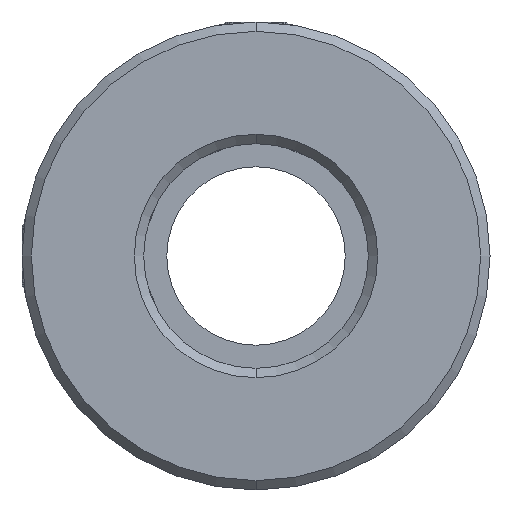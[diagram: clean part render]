
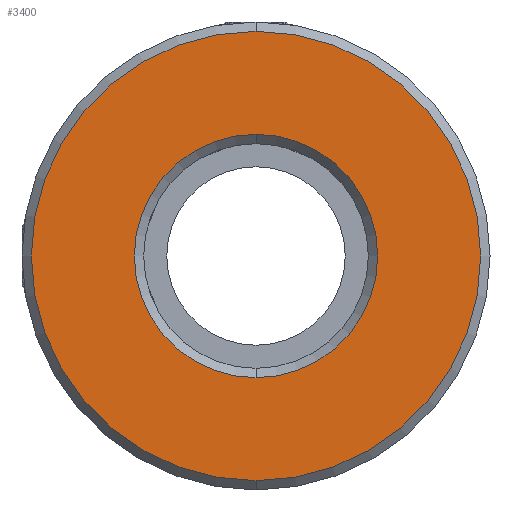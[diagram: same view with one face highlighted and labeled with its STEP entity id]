
A CAD part, front view. The second image highlights one B-rep face of the part: STEP entity #3400.
In plain terms, the highlighted planar face has unit normal (0, -1, 0).
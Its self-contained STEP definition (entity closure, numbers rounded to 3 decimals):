
#239 = FACE_OUTER_BOUND ( 'NONE', #2983, .T. ) ;
#240 = DIRECTION ( 'NONE',  ( 0., 0., 1. ) ) ;
#339 = VERTEX_POINT ( 'NONE', #2026 ) ;
#341 = CARTESIAN_POINT ( 'NONE',  ( -10.188, -0.277, 0.046 ) ) ;
#415 = ORIENTED_EDGE ( 'NONE', *, *, #1731, .T. ) ;
#432 = DIRECTION ( 'NONE',  ( 0., 0., 1. ) ) ;
#453 = CARTESIAN_POINT ( 'NONE',  ( -10.188, -0.277, 0.046 ) ) ;
#736 = ORIENTED_EDGE ( 'NONE', *, *, #3171, .T. ) ;
#749 = EDGE_CURVE ( 'NONE', #3069, #339, #3505, .T. ) ;
#987 = CIRCLE ( 'NONE', #3098, 12. ) ;
#1043 = EDGE_LOOP ( 'NONE', ( #415, #2414 ) ) ;
#1169 = CARTESIAN_POINT ( 'NONE',  ( -10.188, -0.277, 0.046 ) ) ;
#1194 = CARTESIAN_POINT ( 'NONE',  ( -10.188, -0.277, 6.546 ) ) ;
#1242 = AXIS2_PLACEMENT_3D ( 'NONE', #1995, #3356, #3141 ) ;
#1407 = FACE_BOUND ( 'NONE', #1043, .T. ) ;
#1422 = AXIS2_PLACEMENT_3D ( 'NONE', #341, #1834, #2971 ) ;
#1434 = DIRECTION ( 'NONE',  ( 0., -1., 0. ) ) ;
#1467 = AXIS2_PLACEMENT_3D ( 'NONE', #1169, #1745, #240 ) ;
#1705 = VERTEX_POINT ( 'NONE', #3577 ) ;
#1731 = EDGE_CURVE ( 'NONE', #339, #3069, #3342, .T. ) ;
#1745 = DIRECTION ( 'NONE',  ( 0., 1., 0. ) ) ;
#1834 = DIRECTION ( 'NONE',  ( 0., -1., 0. ) ) ;
#1953 = DIRECTION ( 'NONE',  ( 0., 0., 1. ) ) ;
#1995 = CARTESIAN_POINT ( 'NONE',  ( -10.188, -0.277, 0.046 ) ) ;
#2026 = CARTESIAN_POINT ( 'NONE',  ( -10.188, -0.277, -6.454 ) ) ;
#2244 = CARTESIAN_POINT ( 'NONE',  ( -10.188, -0.277, 0.046 ) ) ;
#2414 = ORIENTED_EDGE ( 'NONE', *, *, #749, .T. ) ;
#2517 = ORIENTED_EDGE ( 'NONE', *, *, #3344, .T. ) ;
#2557 = PLANE ( 'NONE',  #1242 ) ;
#2790 = VERTEX_POINT ( 'NONE', #3023 ) ;
#2971 = DIRECTION ( 'NONE',  ( 0., 0., 1. ) ) ;
#2983 = EDGE_LOOP ( 'NONE', ( #736, #2517 ) ) ;
#3023 = CARTESIAN_POINT ( 'NONE',  ( -10.188, -0.277, 12.046 ) ) ;
#3069 = VERTEX_POINT ( 'NONE', #1194 ) ;
#3090 = DIRECTION ( 'NONE',  ( 0., 1., 0. ) ) ;
#3098 = AXIS2_PLACEMENT_3D ( 'NONE', #2244, #1434, #1953 ) ;
#3141 = DIRECTION ( 'NONE',  ( 0., 0., 1. ) ) ;
#3171 = EDGE_CURVE ( 'NONE', #2790, #1705, #3275, .T. ) ;
#3275 = CIRCLE ( 'NONE', #1422, 12. ) ;
#3342 = CIRCLE ( 'NONE', #3537, 6.5 ) ;
#3344 = EDGE_CURVE ( 'NONE', #1705, #2790, #987, .T. ) ;
#3356 = DIRECTION ( 'NONE',  ( 0., 1., 0. ) ) ;
#3400 = ADVANCED_FACE ( 'NONE', ( #239, #1407 ), #2557, .F. ) ;
#3505 = CIRCLE ( 'NONE', #1467, 6.5 ) ;
#3537 = AXIS2_PLACEMENT_3D ( 'NONE', #453, #3090, #432 ) ;
#3577 = CARTESIAN_POINT ( 'NONE',  ( -10.188, -0.277, -11.954 ) ) ;
